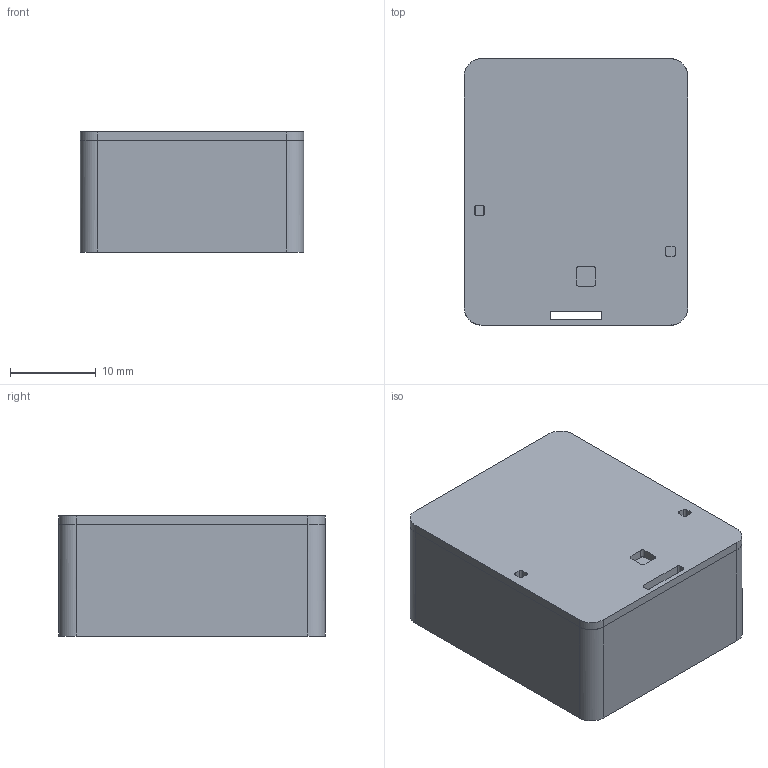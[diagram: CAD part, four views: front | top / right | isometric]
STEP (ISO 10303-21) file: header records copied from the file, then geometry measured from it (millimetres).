
FILE_DESCRIPTION(('SolidCraft model'),'2;1');
FILE_NAME('assembled.step','',(''),(''),'SolidCraft','SolidCraft','');
FILE_SCHEMA(('AP242_MANAGED_MODEL_BASED_3D_ENGINEERING_MIM_LF { 1 0 10303 442 1 1 4 }'));
Length unit declared in the file: millimetre
Products named in the file (1): assembled
Bounding box: 26 x 31 x 14 mm (x, y, z)
Volume: 6271.9 mm3; surface area: 11080.3 mm2
Topology: 94 solids, 94 shells, 1033 faces, 2644 edges, 1800 vertices
Faces by surface type: plane 613, cylinder 420
Entity records: 24095 total; most frequent: CARTESIAN_POINT 6269, ORIENTED_EDGE 5288, EDGE_CURVE 2644, LINE 1804, VERTEX_POINT 1800, EDGE_LOOP 1052, FACE_BOUND 1052, AXIS2_PLACEMENT_3D 1034
